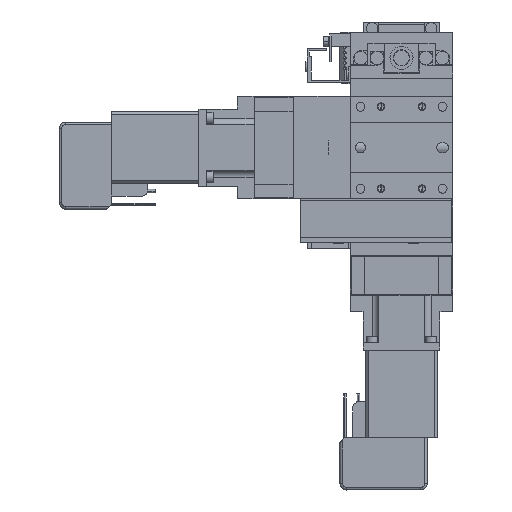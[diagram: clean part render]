
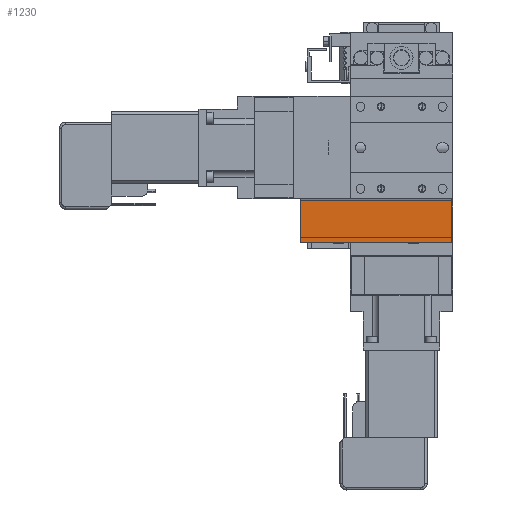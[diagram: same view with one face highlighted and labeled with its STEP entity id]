
A CAD part, front view. The second image highlights one B-rep face of the part: STEP entity #1230.
In plain terms, the highlighted planar face has unit normal (0, -1, 0).
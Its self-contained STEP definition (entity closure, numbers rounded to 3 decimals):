
#1230=ADVANCED_FACE('',(#3354),#3355,.F.);
#3354=FACE_OUTER_BOUND('',#7153,.T.);
#3355=PLANE('',#7154);
#7153=EDGE_LOOP('',(#12629,#12630,#12631,#12632));
#7154=AXIS2_PLACEMENT_3D('',#12633,#12634,#12635);
#12629=ORIENTED_EDGE('',*,*,#25288,.T.);
#12630=ORIENTED_EDGE('',*,*,#25289,.F.);
#12631=ORIENTED_EDGE('',*,*,#25268,.F.);
#12632=ORIENTED_EDGE('',*,*,#25284,.T.);
#12633=CARTESIAN_POINT('',(-39.5,0.5,-36.8));
#12634=DIRECTION('',(0.,1.0,0.));
#12635=DIRECTION('',(-1.0,0.,0.));
#25268=EDGE_CURVE('',#30156,#30158,#30159,.T.);
#25284=EDGE_CURVE('',#30156,#30183,#30185,.T.);
#25288=EDGE_CURVE('',#30183,#30190,#30191,.T.);
#25289=EDGE_CURVE('',#30158,#30190,#30192,.T.);
#30156=VERTEX_POINT('',#37845);
#30158=VERTEX_POINT('',#37848);
#30159=LINE('',#37849,#37850);
#30183=VERTEX_POINT('',#37886);
#30185=LINE('',#37889,#37890);
#30190=VERTEX_POINT('',#37895);
#30191=LINE('',#37896,#37897);
#30192=LINE('',#37898,#37899);
#37845=CARTESIAN_POINT('',(-39.5,0.5,-36.8));
#37848=CARTESIAN_POINT('',(-39.5,0.5,-20.));
#37849=CARTESIAN_POINT('',(-39.5,0.5,-36.8));
#37850=VECTOR('',#48690,1000.0);
#37886=CARTESIAN_POINT('',(19.5,0.5,-36.8));
#37889=CARTESIAN_POINT('',(-39.5,0.5,-36.8));
#37890=VECTOR('',#48710,1000.0);
#37895=CARTESIAN_POINT('',(19.5,0.5,-20.));
#37896=CARTESIAN_POINT('',(19.5,0.5,-36.8));
#37897=VECTOR('',#48720,1000.0);
#37898=CARTESIAN_POINT('',(-39.5,0.5,-20.));
#37899=VECTOR('',#48721,1000.0);
#48690=DIRECTION('',(0.,0.,1.0));
#48710=DIRECTION('',(1.0,0.,0.));
#48720=DIRECTION('',(0.,0.,1.0));
#48721=DIRECTION('',(1.0,0.,0.));
